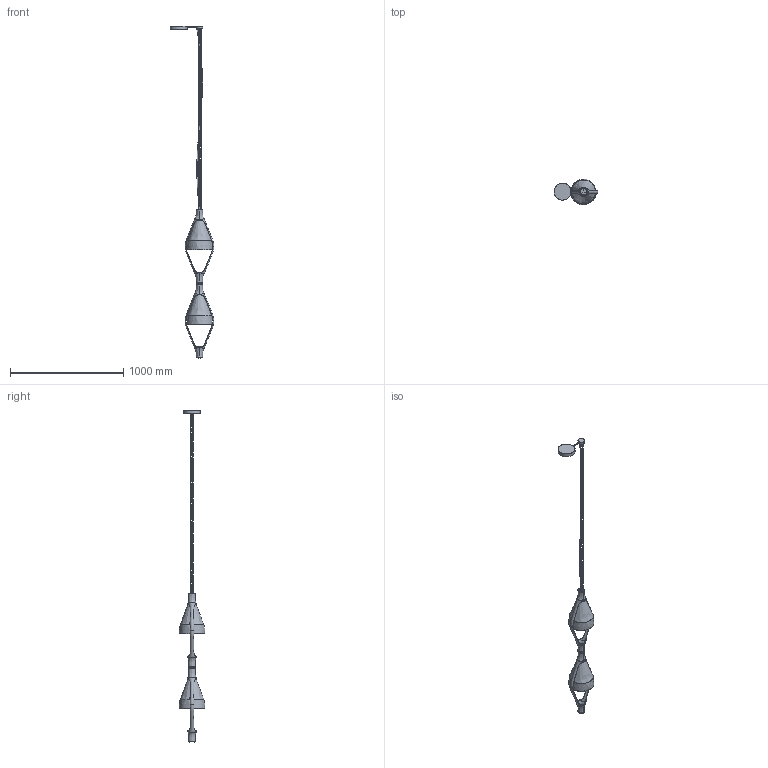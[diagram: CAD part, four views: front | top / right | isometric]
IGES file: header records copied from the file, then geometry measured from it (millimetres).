
Global section: file name: \\10.0.10.244\Ufficio Tecnico\SVILUPPO PRODOTTI\3D per sito 2020\VICEVERSA 2.igs; native system: Rhinoceros ( Apr  4 2016 ); preprocessor: Trout Lake IGES 012 Apr  4 2016; date: 201006.130655; units: millimetre
Bounding box: 386.94 x 225.41 x 2936.47 mm (x, y, z)
Surface area: 1017610.7 mm2 (no closed solid volume)
Topology: 0 solids, 0 shells, 147 faces, 1886 edges, 1872 vertices
Faces by surface type: bspline 147
